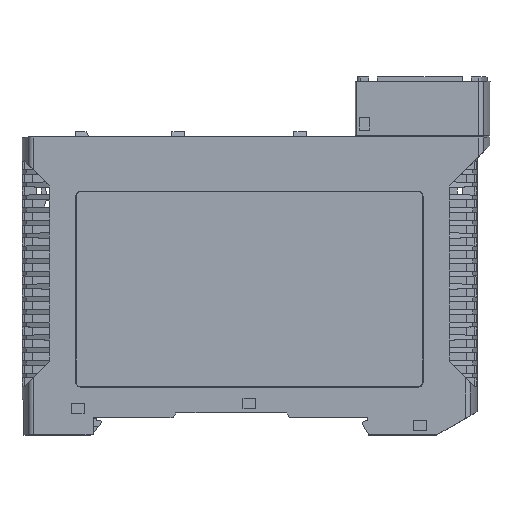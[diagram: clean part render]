
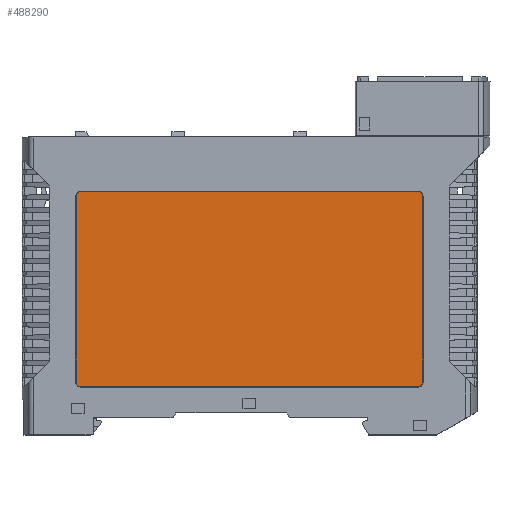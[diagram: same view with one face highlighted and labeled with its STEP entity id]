
A CAD part, top view. The second image highlights one B-rep face of the part: STEP entity #488290.
In plain terms, the highlighted planar face has unit normal (0, 0, 1).
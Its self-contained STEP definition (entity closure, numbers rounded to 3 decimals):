
#360680=CARTESIAN_POINT('',(102.65,-28.7,-0.45)
);
#360690=VERTEX_POINT('',#360680);
#360850=CARTESIAN_POINT('',(102.65,-100.2,-0.45));
#360860=VERTEX_POINT('',#360850);
#360890=CARTESIAN_POINT('',(102.65,-26.,-0.45));
#360900=DIRECTION('',(0.,1.,0.));
#360910=VECTOR('',#360900,1.);
#360920=LINE('',#360890,#360910);
#360930=EDGE_CURVE('',#360860,#360690,#360920,.T.);
#370170=CARTESIAN_POINT('',(-30.55,-1.,-0.45));
#370180=DIRECTION('',(0.,1.,0.));
#370190=VECTOR('',#370180,1.);
#370200=LINE('',#370170,#370190);
#370210=CARTESIAN_POINT('',(-30.55,-100.2,-0.45));
#370220=VERTEX_POINT('',#370210);
#370230=CARTESIAN_POINT('',(-30.55,-28.7,-0.45)
);
#370240=VERTEX_POINT('',#370230);
#370250=EDGE_CURVE('',#370220,#370240,#370200,.T.);
#392200=CARTESIAN_POINT('',(-28.75,-102.,-0.45));
#392210=VERTEX_POINT('',#392200);
#392240=CARTESIAN_POINT('',(72.1,-102.,-0.45));
#392250=DIRECTION('',(-1.,0.,0.));
#392260=VECTOR('',#392250,1.);
#392270=LINE('',#392240,#392260);
#392280=CARTESIAN_POINT('',(100.85,-102.,-0.45));
#392290=VERTEX_POINT('',#392280);
#392300=EDGE_CURVE('',#392290,#392210,#392270,.T.);
#451200=CARTESIAN_POINT('',(-28.75,-100.2,-0.45));
#451210=DIRECTION('',(0.,0.,-1.));
#451220=DIRECTION('',(-1.,0.,0.));
#451230=AXIS2_PLACEMENT_3D('',#451200,#451210,#451220);
#451240=CIRCLE('',#451230,1.8);
#451250=EDGE_CURVE('',#392210,#370220,#451240,.T.);
#487870=CARTESIAN_POINT('',(-42.205,-120.331,
-0.45));
#487880=DIRECTION('',(0.,0.,-1.));
#487890=DIRECTION('',(1.,0.,0.));
#487900=AXIS2_PLACEMENT_3D('',#487870,#487880,#487890);
#487910=PLANE('',#487900);
#487920=ORIENTED_EDGE('',*,*,#451250,.F.);
#487930=ORIENTED_EDGE('',*,*,#370250,.F.);
#487940=CARTESIAN_POINT('',(-28.75,-28.7,-0.45)
);
#487950=DIRECTION('',(0.,0.,-1.));
#487960=DIRECTION('',(-1.,0.,0.));
#487970=AXIS2_PLACEMENT_3D('',#487940,#487950,#487960);
#487980=CIRCLE('',#487970,1.8);
#487990=CARTESIAN_POINT('',(-28.75,-26.9,-0.45)
);
#488000=VERTEX_POINT('',#487990);
#488010=EDGE_CURVE('',#370240,#488000,#487980,.T.);
#488020=ORIENTED_EDGE('',*,*,#488010,.F.);
#488030=CARTESIAN_POINT('',(0.,-26.9,-0.45));
#488040=DIRECTION('',(-1.,0.,0.));
#488050=VECTOR('',#488040,1.);
#488060=LINE('',#488030,#488050);
#488070=CARTESIAN_POINT('',(100.85,-26.9,-0.45)
);
#488080=VERTEX_POINT('',#488070);
#488090=EDGE_CURVE('',#488080,#488000,#488060,.T.);
#488100=ORIENTED_EDGE('',*,*,#488090,.T.);
#488110=CARTESIAN_POINT('',(100.85,-28.7,-0.45)
);
#488120=DIRECTION('',(0.,0.,1.));
#488130=DIRECTION('',(1.,0.,0.));
#488140=AXIS2_PLACEMENT_3D('',#488110,#488120,#488130);
#488150=CIRCLE('',#488140,1.8);
#488160=EDGE_CURVE('',#360690,#488080,#488150,.T.);
#488170=ORIENTED_EDGE('',*,*,#488160,.T.);
#488180=ORIENTED_EDGE('',*,*,#360930,.T.);
#488190=CARTESIAN_POINT('',(100.85,-100.2,-0.45));
#488200=DIRECTION('',(0.,0.,1.));
#488210=DIRECTION('',(1.,0.,0.));
#488220=AXIS2_PLACEMENT_3D('',#488190,#488200,#488210);
#488230=CIRCLE('',#488220,1.8);
#488240=EDGE_CURVE('',#392290,#360860,#488230,.T.);
#488250=ORIENTED_EDGE('',*,*,#488240,.T.);
#488260=ORIENTED_EDGE('',*,*,#392300,.F.);
#488270=EDGE_LOOP('',(#488260,#488250,#488180,#488170,#488100,#488020,
#487930,#487920));
#488280=FACE_OUTER_BOUND('',#488270,.T.);
#488290=ADVANCED_FACE('',(#488280),#487910,.F.);
